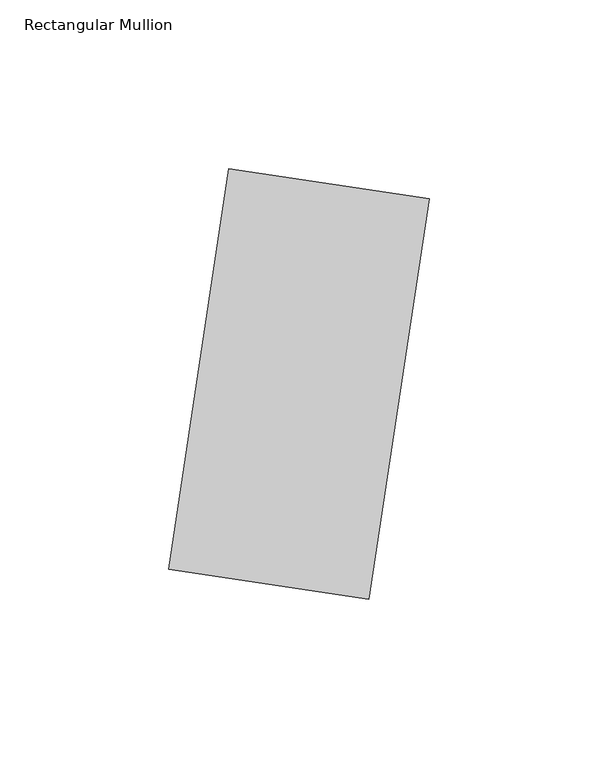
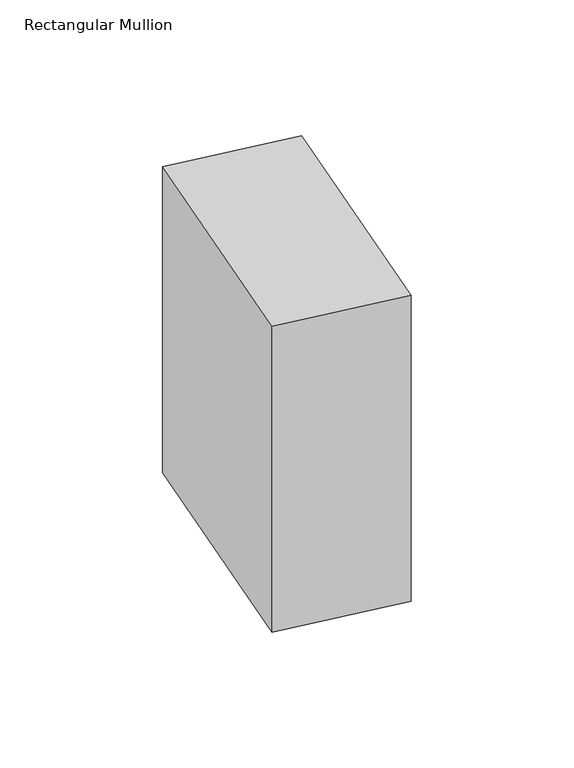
"""IFC4 building model written with IfcOpenShell, lengths in millimetres: member geometry, Rectangular Mullion : TERÇA 6x12 cm."""

from ifc_helpers import new_model, si_unit, frame, origin, place, context, project, spatial, polyline, outline, extrude, source, transform, mapped, element, save


def rectangular_mullion_5ee41584(model_context):
    return source(origin(), model_context, "Body", "SweptSolid", [
        extrude(outline(polyline([(-29.6680906, 4.4502136), (-11.8672362, 123.1225759), (47.4689449, 114.2221488), (29.6680906, -4.4502136), (-29.6680906, 4.4502136)])), frame((0.0, 0.0, -150.0), z_axis=(0.0, 0.0, 1.0), x_axis=(1.0, 0.0, 0.0)), (0.0, 0.0, 1.0), 150.0),
    ])


if __name__ == "__main__":
    model = new_model("IFC4")
    model_context = context("Model", 3, world=origin())
    ifc_project = project(units=[si_unit("LENGTHUNIT", "METRE", prefix="MILLI")], contexts=[model_context])
    site = spatial("IfcSite", under=ifc_project)
    building = spatial("IfcBuilding", under=site)
    placement = place(None, origin())
    rectangular_mullion_shape = rectangular_mullion_5ee41584(model_context)
    element("IfcMember", 1, ObjectType="Rectangular Mullion : TERÇA 6x12 cm", at=placement, inside=building, context=model_context, shape_type="MappedRepresentation", body=[
        mapped(rectangular_mullion_shape, transform((0.0, 0.0, 0.0), x_axis=(1.0, 0.0, 0.0), y_axis=(0.0, 1.0, 0.0), z_axis=(0.0, 0.0, 1.0))),
    ])
    save(model, "model.ifc")
